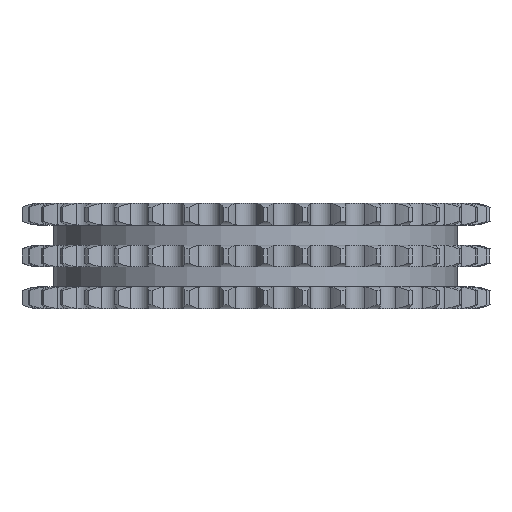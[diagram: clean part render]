
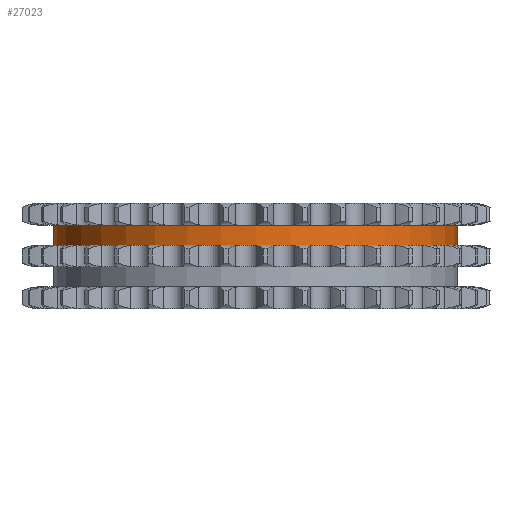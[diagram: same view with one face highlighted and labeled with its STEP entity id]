
A CAD part, left-side view. The second image highlights one B-rep face of the part: STEP entity #27023.
In plain terms, the highlighted cylindrical face has radius 66.877 mm (diameter 133.754 mm), a partial arc.
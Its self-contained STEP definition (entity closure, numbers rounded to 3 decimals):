
#6395=DIRECTION('',(0.,0.,-1.));
#6396=VECTOR('',#6395,6.65);
#6397=CARTESIAN_POINT('',(0.,66.877,10.25));
#6398=LINE('',#6397,#6396);
#6402=CARTESIAN_POINT('',(0.,0.,10.25));
#6403=DIRECTION('',(0.,0.,1.));
#6404=DIRECTION('',(0.,1.,0.));
#6405=AXIS2_PLACEMENT_3D('',#6402,#6403,#6404);
#6410=DIRECTION('',(0.,0.,-1.));
#6411=VECTOR('',#6410,6.65);
#6412=CARTESIAN_POINT('',(0.,-66.877,10.25));
#6413=LINE('',#6412,#6411);
#6417=CARTESIAN_POINT('',(0.,0.,3.6));
#6418=DIRECTION('',(0.,0.,1.));
#6419=DIRECTION('',(0.,1.,0.));
#6420=AXIS2_PLACEMENT_3D('',#6417,#6418,#6419);
#19942=CARTESIAN_POINT('',(0.,66.877,10.25));
#19943=CARTESIAN_POINT('',(0.,66.877,3.6));
#19944=VERTEX_POINT('',#19942);
#19945=VERTEX_POINT('',#19943);
#19946=CARTESIAN_POINT('',(0.,-66.877,10.25));
#19947=CARTESIAN_POINT('',(0.,-66.877,3.6));
#19948=VERTEX_POINT('',#19946);
#19949=VERTEX_POINT('',#19947);
#27011=CARTESIAN_POINT('',(0.,0.,11.275));
#27012=DIRECTION('',(0.,0.,-1.));
#27013=DIRECTION('',(0.,-1.,0.));
#27014=AXIS2_PLACEMENT_3D('',#27011,#27012,#27013);
#27015=CYLINDRICAL_SURFACE('',#27014,66.877);
#27016=ORIENTED_EDGE('',*,*,#27001,.F.);
#27017=ORIENTED_EDGE('',*,*,#26991,.T.);
#27018=ORIENTED_EDGE('',*,*,#27005,.T.);
#27020=ORIENTED_EDGE('',*,*,#27019,.F.);
#27021=EDGE_LOOP('',(#27016,#27017,#27018,#27020));
#27022=FACE_OUTER_BOUND('',#27021,.F.);
#27023=ADVANCED_FACE('',(#27022),#27015,.T.);
#6406=CIRCLE('',#6405,66.877);
#6421=CIRCLE('',#6420,66.877);
#26991=EDGE_CURVE('',#19944,#19948,#6406,.T.);
#27001=EDGE_CURVE('',#19944,#19945,#6398,.T.);
#27005=EDGE_CURVE('',#19948,#19949,#6413,.T.);
#27019=EDGE_CURVE('',#19945,#19949,#6421,.T.);
